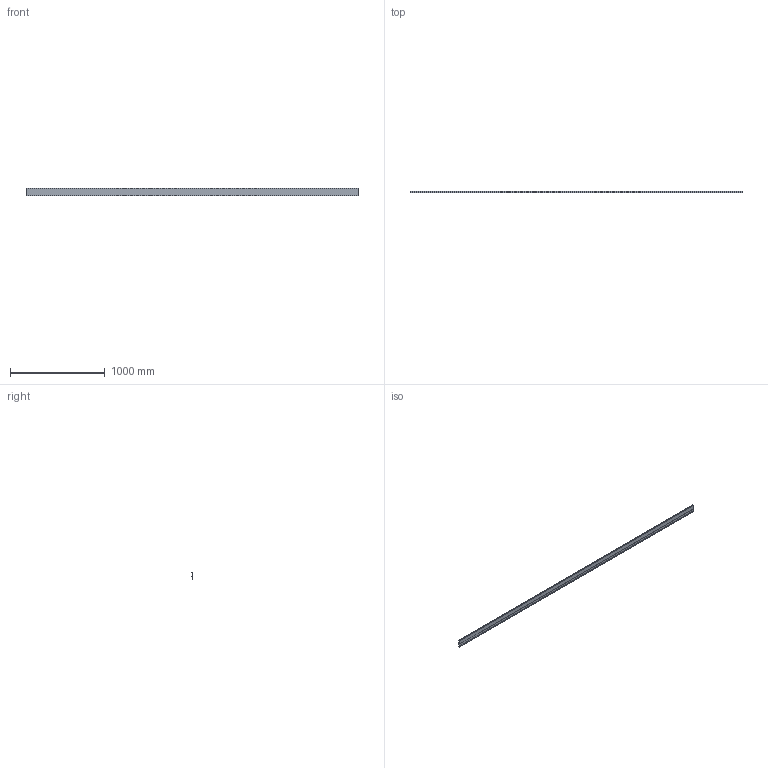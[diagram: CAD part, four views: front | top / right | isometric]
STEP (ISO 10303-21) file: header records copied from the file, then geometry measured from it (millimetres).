
FILE_DESCRIPTION(('STEP AP242'),'1');
FILE_NAME('OPO_65.083.33.stp','2026-03-17T13:41:57',(' '),(' '),'Spatial InterOp 3D',' ',' ');
FILE_SCHEMA(('AP242_MANAGED_MODEL_BASED_3D_ENGINEERING_MIM_LF {1 0 10303 442 1 1 4}'));
Length unit declared in the file: millimetre
Products named in the file (1): 1
Bounding box: 3500 x 11.5 x 79.5 mm (x, y, z)
Volume: 392000 mm3; surface area: 791224 mm2
Topology: 1 solids, 1 shells, 68 faces, 184 edges, 122 vertices
Faces by surface type: plane 48, cylinder 20
Entity records: 2692 total; most frequent: CARTESIAN_POINT 375, ORIENTED_EDGE 368, DIRECTION 362, EDGE_CURVE 184, LINE 144, VECTOR 144, VERTEX_POINT 122, AXIS2_PLACEMENT_3D 109
